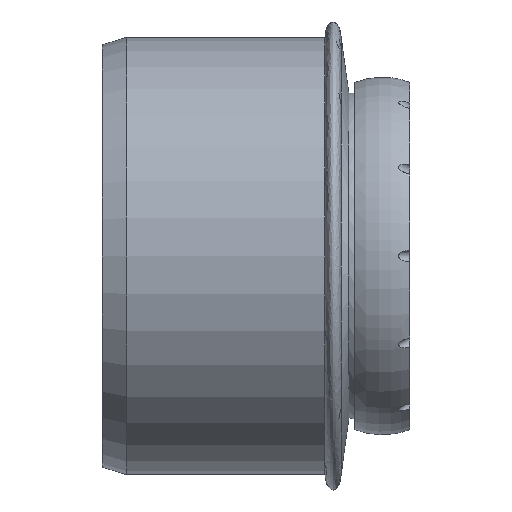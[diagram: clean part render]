
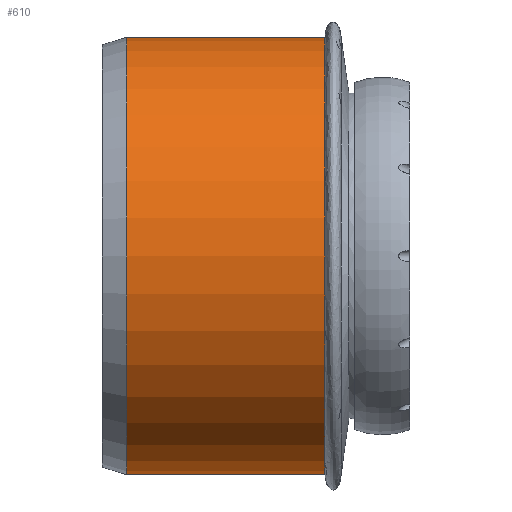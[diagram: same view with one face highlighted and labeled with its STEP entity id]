
A CAD part, front view. The second image highlights one B-rep face of the part: STEP entity #610.
In plain terms, the highlighted cylindrical face has radius 80.125 mm (diameter 160.25 mm), a full revolution.
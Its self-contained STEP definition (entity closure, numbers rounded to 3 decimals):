
#20=FACE_BOUND('',#147,.T.);
#74=CYLINDRICAL_SURFACE('',#694,80.125);
#107=FACE_OUTER_BOUND('',#146,.T.);
#146=EDGE_LOOP('',(#510));
#147=EDGE_LOOP('',(#511));
#193=CIRCLE('',#689,80.125);
#195=CIRCLE('',#693,80.125);
#283=VERTEX_POINT('',#1516);
#285=VERTEX_POINT('',#1523);
#364=EDGE_CURVE('',#283,#283,#193,.T.);
#366=EDGE_CURVE('',#285,#285,#195,.T.);
#510=ORIENTED_EDGE('',*,*,#364,.F.);
#511=ORIENTED_EDGE('',*,*,#366,.T.);
#610=ADVANCED_FACE('',(#107,#20),#74,.T.);
#689=AXIS2_PLACEMENT_3D('',#1518,#861,#862);
#693=AXIS2_PLACEMENT_3D('',#1524,#869,#870);
#694=AXIS2_PLACEMENT_3D('',#1525,#871,#872);
#861=DIRECTION('center_axis',(1.,0.,0.));
#862=DIRECTION('ref_axis',(0.,0.,-1.));
#869=DIRECTION('center_axis',(1.,0.,0.));
#870=DIRECTION('ref_axis',(0.,0.,-1.));
#871=DIRECTION('center_axis',(1.,0.,0.));
#872=DIRECTION('ref_axis',(0.,1.,0.));
#1516=CARTESIAN_POINT('',(81.6,98.755,0.));
#1518=CARTESIAN_POINT('Origin',(81.6,18.63,0.));
#1523=CARTESIAN_POINT('',(9.,98.755,0.));
#1524=CARTESIAN_POINT('Origin',(9.,18.63,0.));
#1525=CARTESIAN_POINT('Origin',(45.3,18.63,0.));
